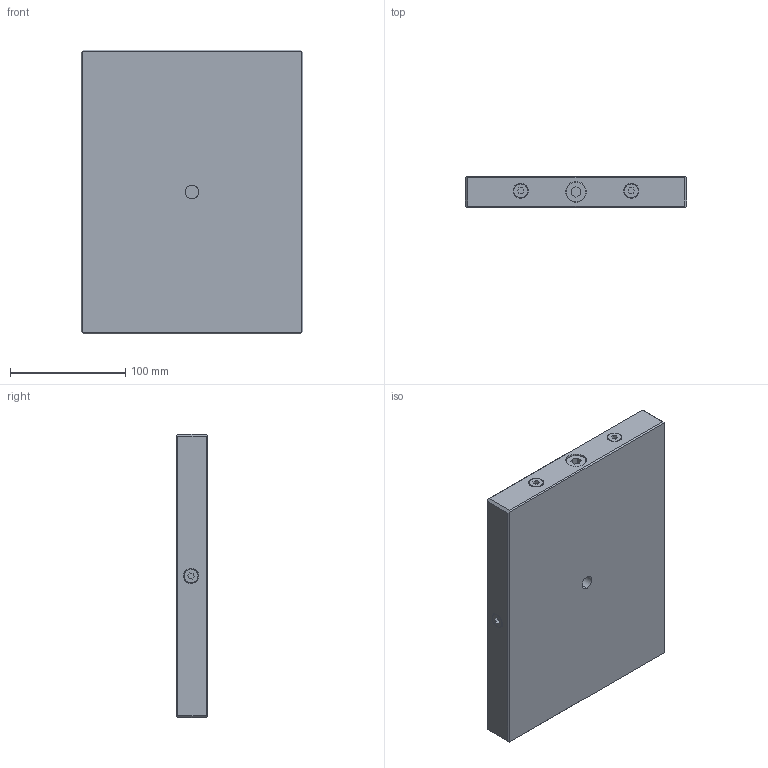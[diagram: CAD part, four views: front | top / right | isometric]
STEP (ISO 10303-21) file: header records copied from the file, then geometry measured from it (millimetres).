
FILE_DESCRIPTION (( 'STEP AP203' ), '1' );
FILE_NAME ('45716.STEP', '2015-03-05T12:11:21', ( '' ), ( '' ), 'SwSTEP 2.0', 'SolidWorks 2011', '' );
FILE_SCHEMA (( 'CONFIG_CONTROL_DESIGN' ));
Length unit declared in the file: millimetre
Products named in the file (1): 45716
Bounding box: 192 x 27 x 246 mm (x, y, z)
Volume: 1166803.9 mm3; surface area: 153154.6 mm2
Topology: 8 solids, 8 shells, 185 faces, 444 edges, 275 vertices
Faces by surface type: plane 89, cylinder 60, cone 28, torus 8
Entity records: 6143 total; most frequent: CARTESIAN_POINT 1791, ORIENTED_EDGE 888, DIRECTION 874, EDGE_CURVE 444, AXIS2_PLACEMENT_3D 306, VERTEX_POINT 275, VECTOR 262, LINE 262
